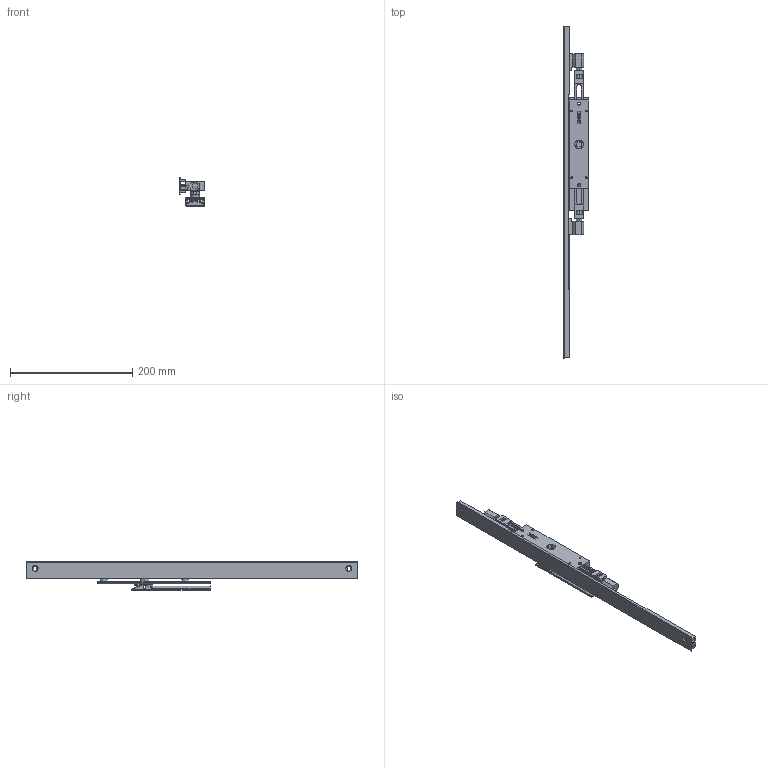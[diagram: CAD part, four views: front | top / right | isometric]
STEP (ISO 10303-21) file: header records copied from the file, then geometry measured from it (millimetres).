
FILE_DESCRIPTION (( 'STEP AP214' ), '1' );
FILE_NAME ('TPL-W-501-L 19July2024.STEP', '2024-12-04T23:52:01', ( '' ), ( '' ), 'SwSTEP 2.0', 'SolidWorks 2023', '' );
FILE_SCHEMA (( 'AUTOMOTIVE_DESIGN' ));
Length unit declared in the file: millimetre
Products named in the file (16): Bottom twinpoint transmission rod wood system^TPL-W-001 19July2024_Standard Range 2891.7mm; Copy of COV-112-C Cover C TPLGen2 Lock body^TPL-W-001 19July2024; Copy of LKC-531-A Rod TPLGen2 machined bolt end^TPL-W-001 19July2024_LKC-531-A-M003; Copy of Adapter CnE - simplfied^TPL-W-001 19July2024_26mm backset; Copy of Escutcheon plate unkeyed 185mm - simplified^Copy of TPGen2 handle non-keyed - simplified_TPL-W-001 19July2024; COV-112-B Cover B suit TPLGen2 standard range^TPL-W-001 19July2024_2870mm; Copy of Adapter DnF - simplfied^TPL-W-001 19July2024_26mm backset; COV-112-A Cover A suit TPLGen2 standard range^TPL-W-001 19July2024_2870mm; Copy of TPLGen2 push rod - simplified^Copy of TPLGen2 lock body non-keyed assembly_TPL-W-001 19July2024_Female thread M10; Bolt.step; Copy of Handle sub-assembly - simplified^Copy of TPGen2 handle non-keyed - simplified_TPL-W-001 19July2024; Copy of TPLGen2 lock body non-keyed^Copy of TPLGen2 lock body non-keyed assembly_TPL-W-001 19July2024; Copy of TPGen2 handle non-keyed - simplified^TPL-W-001 19July2024_Vertical; Copy of TPLGen2 lock body non-keyed assembly^TPL-W-001 19July2024_Bolts extended; TPL-W-501-L 19July2024; Copy of LKC-547 Spindle - simplified^Copy of TPGen2 handle non-keyed - simplified_TPL-W-001 19July2024_C - 15mm
Assembly tree (13 placements, depth 3):
  COV-112-B Cover B suit TPLGen2 standard range^TPL-W-001 19July2024_2870mm
  COV-112-A Cover A suit TPLGen2 standard range^TPL-W-001 19July2024_2870mm
  Bolt.step
  TPL-W-501-L 19July2024
    Copy of TPLGen2 lock body non-keyed assembly^TPL-W-001 19July2024_Bolts extended
      Copy of TPLGen2 lock body non-keyed^Copy of TPLGen2 lock body non-keyed assembly_TPL-W-001 19July2024
      Copy of TPLGen2 push rod - simplified^Copy of TPLGen2 lock body non-keyed assembly_TPL-W-001 19July2024_Female thread M10  x2
    Copy of TPGen2 handle non-keyed - simplified^TPL-W-001 19July2024_Vertical
      Copy of Escutcheon plate unkeyed 185mm - simplified^Copy of TPGen2 handle non-keyed - simplified_TPL-W-001 19July2024
      Copy of Handle sub-assembly - simplified^Copy of TPGen2 handle non-keyed - simplified_TPL-W-001 19July2024
      Copy of LKC-547 Spindle - simplified^Copy of TPGen2 handle non-keyed - simplified_TPL-W-001 19July2024_C - 15mm
    Copy of COV-112-C Cover C TPLGen2 Lock body^TPL-W-001 19July2024
    Bottom twinpoint transmission rod wood system^TPL-W-001 19July2024_Standard Range 2891.7mm
    Copy of LKC-531-A Rod TPLGen2 machined bolt end^TPL-W-001 19July2024_LKC-531-A-M003
    Copy of Adapter DnF - simplfied^TPL-W-001 19July2024_26mm backset
    Copy of Adapter CnE - simplfied^TPL-W-001 19July2024_26mm backset
Bounding box: 42 x 544 x 45.97 mm (x, y, z)
Volume: 208119 mm3; surface area: 118316 mm2
Topology: 12 solids, 12 shells, 643 faces, 1638 edges, 1036 vertices
Faces by surface type: plane 303, cylinder 199, bspline 77, torus 32, cone 20, sphere 12
Entity records: 19387 total; most frequent: CARTESIAN_POINT 4495, ORIENTED_EDGE 3060, DIRECTION 2907, EDGE_CURVE 1530, AXIS2_PLACEMENT_3D 1000, VERTEX_POINT 976, VECTOR 907, LINE 907
